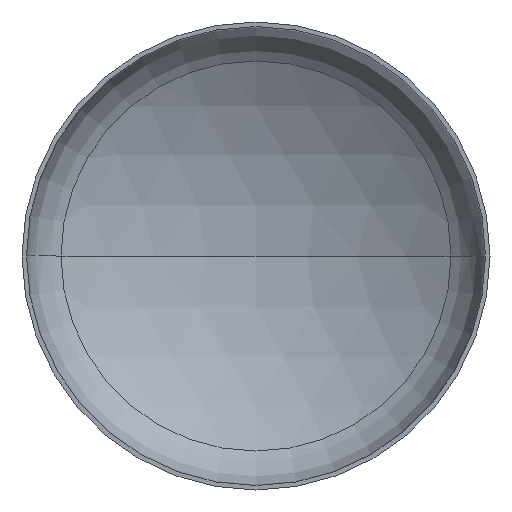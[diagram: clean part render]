
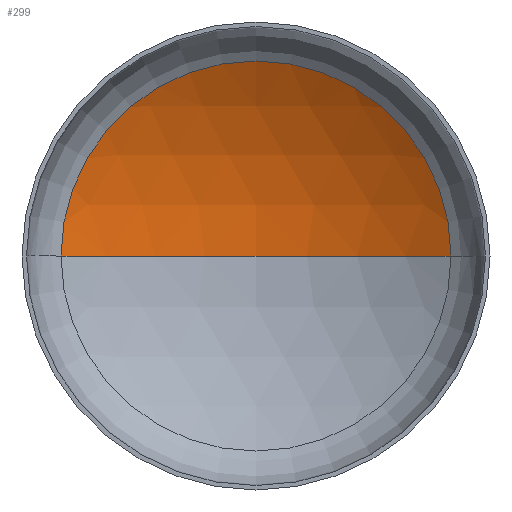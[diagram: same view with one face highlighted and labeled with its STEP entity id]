
A CAD part, front view. The second image highlights one B-rep face of the part: STEP entity #299.
In plain terms, the highlighted spherical face has radius 2240 mm.
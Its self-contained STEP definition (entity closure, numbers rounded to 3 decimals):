
#4 = DIRECTION ( 'NONE',  ( 1., 0., 0. ) ) ;
#11 = DIRECTION ( 'NONE',  ( 0., 0., -1. ) ) ;
#12 = CIRCLE ( 'NONE', #55, 1167.028 ) ;
#17 = AXIS2_PLACEMENT_3D ( 'NONE', #283, #11, #198 ) ;
#34 = VERTEX_POINT ( 'NONE', #37 ) ;
#37 = CARTESIAN_POINT ( 'NONE',  ( -1167.028, 452.031, 0. ) ) ;
#49 = AXIS2_PLACEMENT_3D ( 'NONE', #370, #229, #394 ) ;
#54 = AXIS2_PLACEMENT_3D ( 'NONE', #106, #327, #152 ) ;
#55 = AXIS2_PLACEMENT_3D ( 'NONE', #392, #256, #4 ) ;
#101 = VERTEX_POINT ( 'NONE', #176 ) ;
#106 = CARTESIAN_POINT ( 'NONE',  ( 0., -1459.944, 0. ) ) ;
#115 = EDGE_CURVE ( 'NONE', #407, #34, #12, .T. ) ;
#120 = EDGE_CURVE ( 'NONE', #101, #407, #359, .T. ) ;
#124 = EDGE_CURVE ( 'NONE', #101, #34, #143, .T. ) ;
#134 = ORIENTED_EDGE ( 'NONE', *, *, #115, .T. ) ;
#143 = CIRCLE ( 'NONE', #49, 2240. ) ;
#145 = ORIENTED_EDGE ( 'NONE', *, *, #124, .F. ) ;
#152 = DIRECTION ( 'NONE',  ( -1., 0., 0. ) ) ;
#157 = EDGE_LOOP ( 'NONE', ( #145, #276, #134 ) ) ;
#176 = CARTESIAN_POINT ( 'NONE',  ( 0., 780.056, 0. ) ) ;
#198 = DIRECTION ( 'NONE',  ( -1., 0., 0. ) ) ;
#223 = FACE_OUTER_BOUND ( 'NONE', #157, .T. ) ;
#229 = DIRECTION ( 'NONE',  ( 0., 0., 1. ) ) ;
#256 = DIRECTION ( 'NONE',  ( 0., -1., 0. ) ) ;
#266 = CARTESIAN_POINT ( 'NONE',  ( 1167.028, 452.031, 0. ) ) ;
#276 = ORIENTED_EDGE ( 'NONE', *, *, #120, .T. ) ;
#277 = SPHERICAL_SURFACE ( 'NONE', #17, 2240. ) ;
#283 = CARTESIAN_POINT ( 'NONE',  ( 0., -1459.944, 0. ) ) ;
#299 = ADVANCED_FACE ( 'NONE', ( #223 ), #277, .F. ) ;
#327 = DIRECTION ( 'NONE',  ( 0., 0., -1. ) ) ;
#359 = CIRCLE ( 'NONE', #54, 2240. ) ;
#370 = CARTESIAN_POINT ( 'NONE',  ( 0., -1459.944, 0. ) ) ;
#392 = CARTESIAN_POINT ( 'NONE',  ( 0., 452.031, 0. ) ) ;
#394 = DIRECTION ( 'NONE',  ( 1., 0., 0. ) ) ;
#407 = VERTEX_POINT ( 'NONE', #266 ) ;
